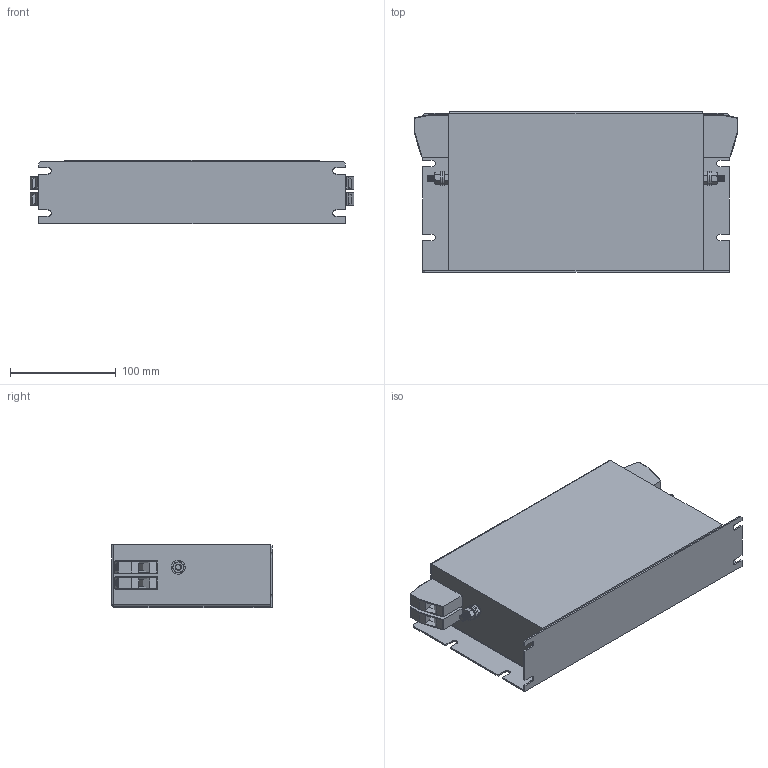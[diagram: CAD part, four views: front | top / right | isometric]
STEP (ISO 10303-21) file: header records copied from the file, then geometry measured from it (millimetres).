
FILE_DESCRIPTION (( 'STEP AP203' ), '1' );
FILE_NAME ('RF-1052-MHU.STEP', '2015-06-15T13:27:51', ( 'User' ), ( 'EPA' ), 'SwSTEP 2.0', 'SolidWorks 2008', '' );
FILE_SCHEMA (( 'CONFIG_CONTROL_DESIGN' ));
Length unit declared in the file: millimetre
Products named in the file (7): Hex Screw_AM_B18.6.7M - M6 x 1.0 x 16 Indented HHMS --16S; HDFK-16; RF-1052-MHU; RF-1052, 1035-MHU; M6x16 Earth post; Flat Washer Narrow_AM_B18.22M - Plain washer, 6 mm, narrow; Hex Nut Style 1_AM_B18.2.4.1M - Hex nut, Style 1,  M6 x 1 --D-N
Assembly tree (11 placements, depth 3):
  RF-1052-MHU
    M6x16 Earth post  x2
      Flat Washer Narrow_AM_B18.22M - Plain washer, 6 mm, narrow
      Hex Nut Style 1_AM_B18.2.4.1M - Hex nut, Style 1,  M6 x 1 --D-N
      Hex Screw_AM_B18.6.7M - M6 x 1.0 x 16 Indented HHMS --16S
    HDFK-16  x4
    RF-1052, 1035-MHU
Bounding box: 306.01 x 152 x 60 mm (x, y, z)
Volume: 2224660 mm3; surface area: 188864.2 mm2
Topology: 13 solids, 13 shells, 667 faces, 1593 edges, 978 vertices
Faces by surface type: plane 343, cone 184, cylinder 138, sphere 2
Entity records: 9680 total; most frequent: CARTESIAN_POINT 1673, DIRECTION 1563, ORIENTED_EDGE 1454, EDGE_CURVE 727, AXIS2_PLACEMENT_3D 566, VERTEX_POINT 452, LINE 431, VECTOR 431
